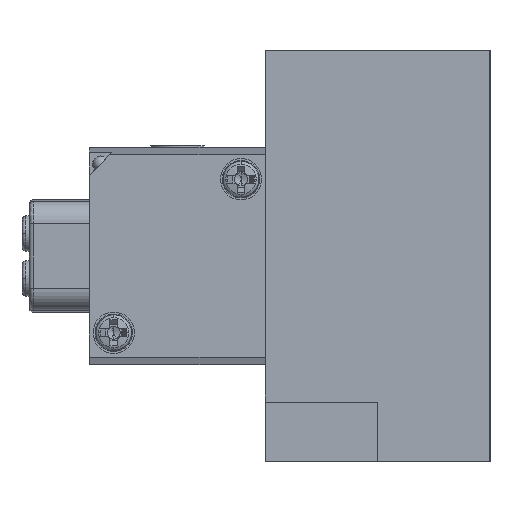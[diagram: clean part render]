
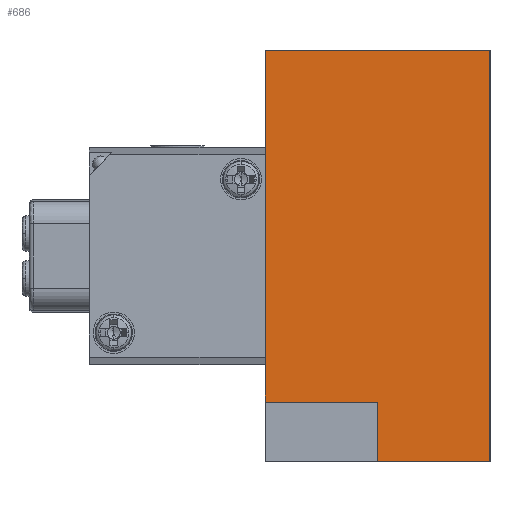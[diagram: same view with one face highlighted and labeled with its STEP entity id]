
A CAD part, left-side view. The second image highlights one B-rep face of the part: STEP entity #686.
In plain terms, the highlighted planar face has unit normal (-1, 0, 0).
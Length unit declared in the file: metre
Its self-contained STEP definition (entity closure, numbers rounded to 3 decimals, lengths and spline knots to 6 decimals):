
#94 = ORIENTED_EDGE ( 'NONE', *, *, #6070, .F. ) ;
#136 = LINE ( 'NONE', #8949, #5079 ) ;
#402 = CARTESIAN_POINT ( 'NONE',  ( -0.034, -0.015, -0.0275 ) ) ;
#582 = VECTOR ( 'NONE', #5357, 1. ) ;
#657 = AXIS2_PLACEMENT_3D ( 'NONE', #8549, #10110, #10169 ) ;
#668 = ORIENTED_EDGE ( 'NONE', *, *, #9556, .F. ) ;
#686 = ADVANCED_FACE ( 'NONE', ( #11446 ), #8528, .F. ) ;
#841 = EDGE_LOOP ( 'NONE', ( #1651, #668, #8220, #94, #4856, #10775 ) ) ;
#1059 = LINE ( 'NONE', #4376, #5620 ) ;
#1104 = CARTESIAN_POINT ( 'NONE',  ( -0.034, 0., 0. ) ) ;
#1344 = CARTESIAN_POINT ( 'NONE',  ( -0.034, 0., -0.0195 ) ) ;
#1613 = VERTEX_POINT ( 'NONE', #10528 ) ;
#1651 = ORIENTED_EDGE ( 'NONE', *, *, #7698, .F. ) ;
#2194 = VERTEX_POINT ( 'NONE', #1344 ) ;
#2441 = VECTOR ( 'NONE', #3727, 1. ) ;
#2513 = VERTEX_POINT ( 'NONE', #4717 ) ;
#3727 = DIRECTION ( 'NONE',  ( 0., 0., -1. ) ) ;
#3994 = CARTESIAN_POINT ( 'NONE',  ( -0.034, 0.015, 0. ) ) ;
#4376 = CARTESIAN_POINT ( 'NONE',  ( -0.034, -0.015, 0. ) ) ;
#4382 = LINE ( 'NONE', #4703, #11287 ) ;
#4598 = DIRECTION ( 'NONE',  ( 0., 1., 0. ) ) ;
#4703 = CARTESIAN_POINT ( 'NONE',  ( -0.034, 0., -0.0275 ) ) ;
#4717 = CARTESIAN_POINT ( 'NONE',  ( -0.034, 0.015, 0.0275 ) ) ;
#4799 = LINE ( 'NONE', #3994, #2441 ) ;
#4856 = ORIENTED_EDGE ( 'NONE', *, *, #5466, .T. ) ;
#4871 = EDGE_CURVE ( 'NONE', #2513, #8366, #4799, .T. ) ;
#5048 = VERTEX_POINT ( 'NONE', #402 ) ;
#5079 = VECTOR ( 'NONE', #8796, 1. ) ;
#5246 = EDGE_CURVE ( 'NONE', #5048, #1613, #4382, .T. ) ;
#5276 = CARTESIAN_POINT ( 'NONE',  ( -0.034, 0., -0.0195 ) ) ;
#5357 = DIRECTION ( 'NONE',  ( 0., 1., 0. ) ) ;
#5466 = EDGE_CURVE ( 'NONE', #5985, #2513, #136, .T. ) ;
#5620 = VECTOR ( 'NONE', #9838, 1. ) ;
#5985 = VERTEX_POINT ( 'NONE', #10545 ) ;
#6070 = EDGE_CURVE ( 'NONE', #5985, #5048, #1059, .T. ) ;
#6688 = LINE ( 'NONE', #1104, #9186 ) ;
#7585 = LINE ( 'NONE', #5276, #582 ) ;
#7698 = EDGE_CURVE ( 'NONE', #2194, #8366, #7585, .T. ) ;
#8220 = ORIENTED_EDGE ( 'NONE', *, *, #5246, .F. ) ;
#8366 = VERTEX_POINT ( 'NONE', #9353 ) ;
#8459 = DIRECTION ( 'NONE',  ( 0., 0., 1. ) ) ;
#8528 = PLANE ( 'NONE',  #657 ) ;
#8549 = CARTESIAN_POINT ( 'NONE',  ( -0.034, -0.015, 0.0275 ) ) ;
#8796 = DIRECTION ( 'NONE',  ( 0., 1., 0. ) ) ;
#8949 = CARTESIAN_POINT ( 'NONE',  ( -0.034, 0., 0.0275 ) ) ;
#9186 = VECTOR ( 'NONE', #8459, 1. ) ;
#9353 = CARTESIAN_POINT ( 'NONE',  ( -0.034, 0.015, -0.0195 ) ) ;
#9556 = EDGE_CURVE ( 'NONE', #1613, #2194, #6688, .T. ) ;
#9838 = DIRECTION ( 'NONE',  ( 0., 0., -1. ) ) ;
#10110 = DIRECTION ( 'NONE',  ( 1., 0., 0. ) ) ;
#10169 = DIRECTION ( 'NONE',  ( 0., 0., -1. ) ) ;
#10528 = CARTESIAN_POINT ( 'NONE',  ( -0.034, 0., -0.0275 ) ) ;
#10545 = CARTESIAN_POINT ( 'NONE',  ( -0.034, -0.015, 0.0275 ) ) ;
#10775 = ORIENTED_EDGE ( 'NONE', *, *, #4871, .T. ) ;
#11287 = VECTOR ( 'NONE', #4598, 1. ) ;
#11446 = FACE_OUTER_BOUND ( 'NONE', #841, .T. ) ;
